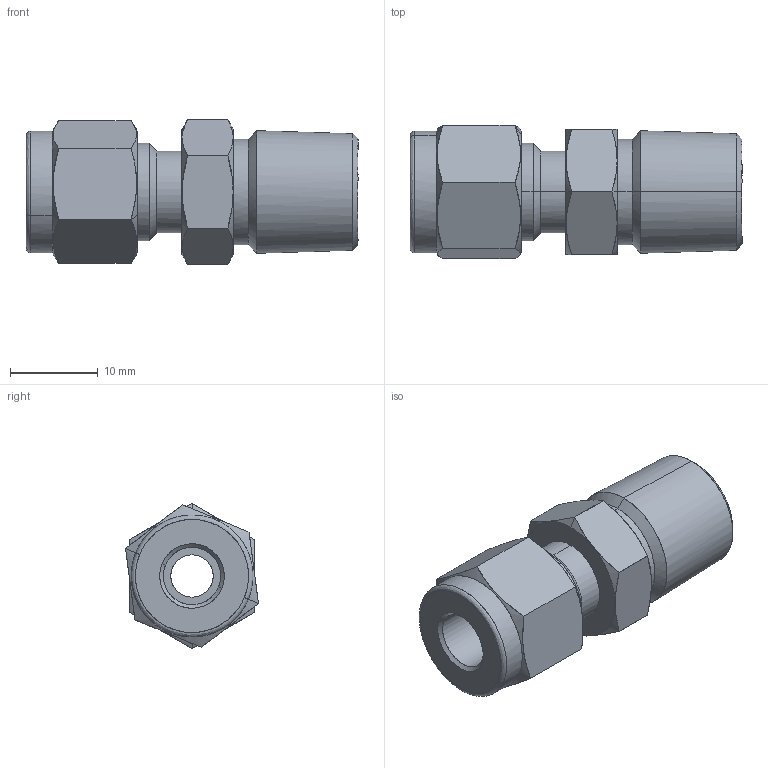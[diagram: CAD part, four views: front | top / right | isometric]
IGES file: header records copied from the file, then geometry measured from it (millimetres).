
Start section: Comment
Global section: file name: SMC4-4N.igs; native system:  By UGS Corp.; preprocessor: XPlus GENERIC/IGES 3.0; author: Author; organization: Title; date: 20100709.083801; units: millimetre
Bounding box: 37.84 x 15.16 x 16.5 mm (x, y, z)
Surface area: 3282.5 mm2 (no closed solid volume)
Topology: 0 solids, 0 shells, 70 faces, 314 edges, 314 vertices
Faces by surface type: bspline 70
